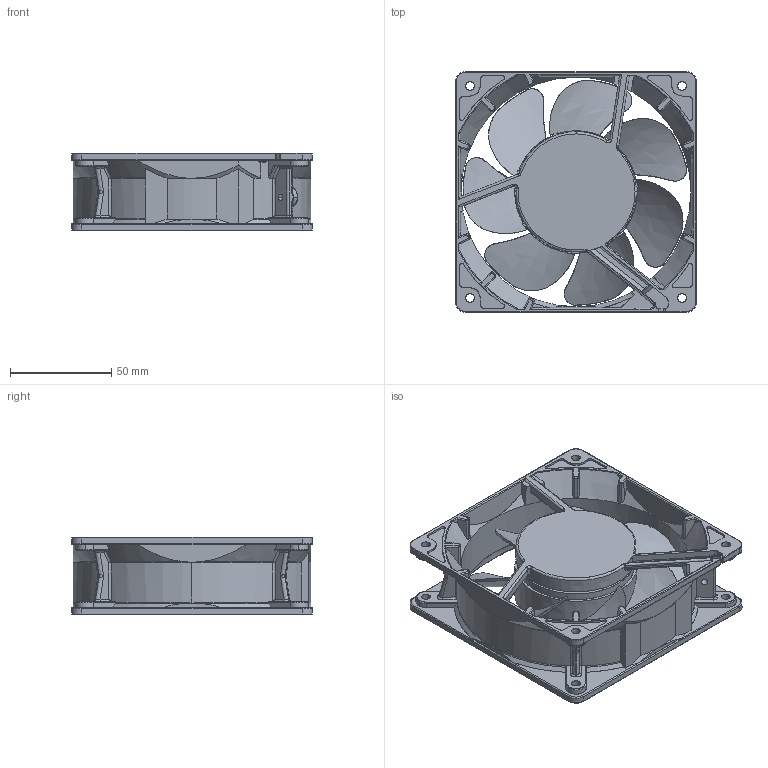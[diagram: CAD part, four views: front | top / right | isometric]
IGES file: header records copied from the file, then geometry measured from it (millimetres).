
Start section: SolidWorks IGES file using analytic representation for surfaces
Global section: file name: C:\Users\koike-masahiro\Desktop\3D 各種モデル\9GL_120x38_NRIB\12038GL_RIBLESS.IGS; native system: SolidWorks 2017; preprocessor: SolidWorks 2017; author: Koike-Masahiro; date: 170324.114831; units: millimetre
Bounding box: 119 x 119 x 38.2 mm (x, y, z)
Surface area: 73000.6 mm2 (no closed solid volume)
Topology: 0 solids, 0 shells, 793 faces, 7736 edges, 7693 vertices
Faces by surface type: bspline 440, revolution 353
